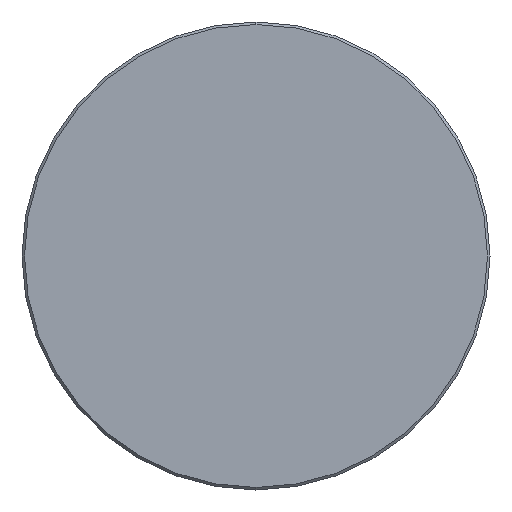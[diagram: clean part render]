
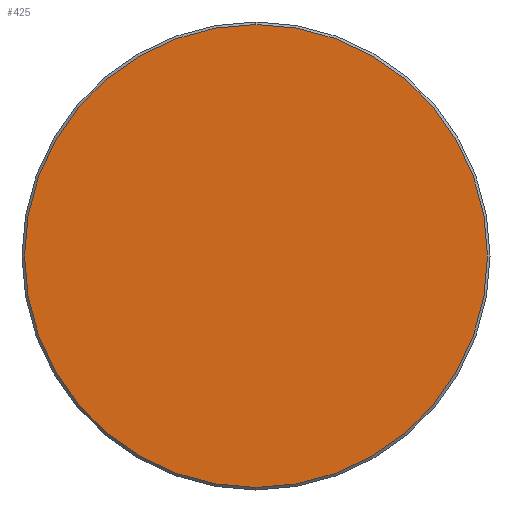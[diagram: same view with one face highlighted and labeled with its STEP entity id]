
A CAD part, left-side view. The second image highlights one B-rep face of the part: STEP entity #425.
In plain terms, the highlighted planar face has unit normal (-1, 0, 0).
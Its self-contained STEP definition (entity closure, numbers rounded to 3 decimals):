
#8 = CIRCLE ( 'NONE', #825, 27.2 ) ;
#20 = CARTESIAN_POINT ( 'NONE',  ( 0., 0., 27.2 ) ) ;
#43 = AXIS2_PLACEMENT_3D ( 'NONE', #413, #539, #610 ) ;
#69 = FACE_OUTER_BOUND ( 'NONE', #636, .T. ) ;
#108 = VERTEX_POINT ( 'NONE', #20 ) ;
#122 = VERTEX_POINT ( 'NONE', #740 ) ;
#158 = DIRECTION ( 'NONE',  ( -1., 0., 0. ) ) ;
#251 = EDGE_CURVE ( 'NONE', #122, #108, #640, .T. ) ;
#304 = DIRECTION ( 'NONE',  ( -1., 0., 0. ) ) ;
#413 = CARTESIAN_POINT ( 'NONE',  ( 0., 0., 0. ) ) ;
#425 = ADVANCED_FACE ( 'NONE', ( #69 ), #542, .F. ) ;
#493 = DIRECTION ( 'NONE',  ( 0., 0., 1. ) ) ;
#539 = DIRECTION ( 'NONE',  ( 1., 0., 0. ) ) ;
#542 = PLANE ( 'NONE',  #43 ) ;
#610 = DIRECTION ( 'NONE',  ( 0., 0., -1. ) ) ;
#636 = EDGE_LOOP ( 'NONE', ( #844, #710 ) ) ;
#638 = DIRECTION ( 'NONE',  ( 0., 0., 1. ) ) ;
#640 = CIRCLE ( 'NONE', #686, 27.2 ) ;
#676 = EDGE_CURVE ( 'NONE', #108, #122, #8, .T. ) ;
#686 = AXIS2_PLACEMENT_3D ( 'NONE', #694, #158, #638 ) ;
#694 = CARTESIAN_POINT ( 'NONE',  ( 0., 0., 0. ) ) ;
#710 = ORIENTED_EDGE ( 'NONE', *, *, #676, .T. ) ;
#740 = CARTESIAN_POINT ( 'NONE',  ( 0., 0., -27.2 ) ) ;
#825 = AXIS2_PLACEMENT_3D ( 'NONE', #834, #304, #493 ) ;
#834 = CARTESIAN_POINT ( 'NONE',  ( 0., 0., 0. ) ) ;
#844 = ORIENTED_EDGE ( 'NONE', *, *, #251, .T. ) ;
